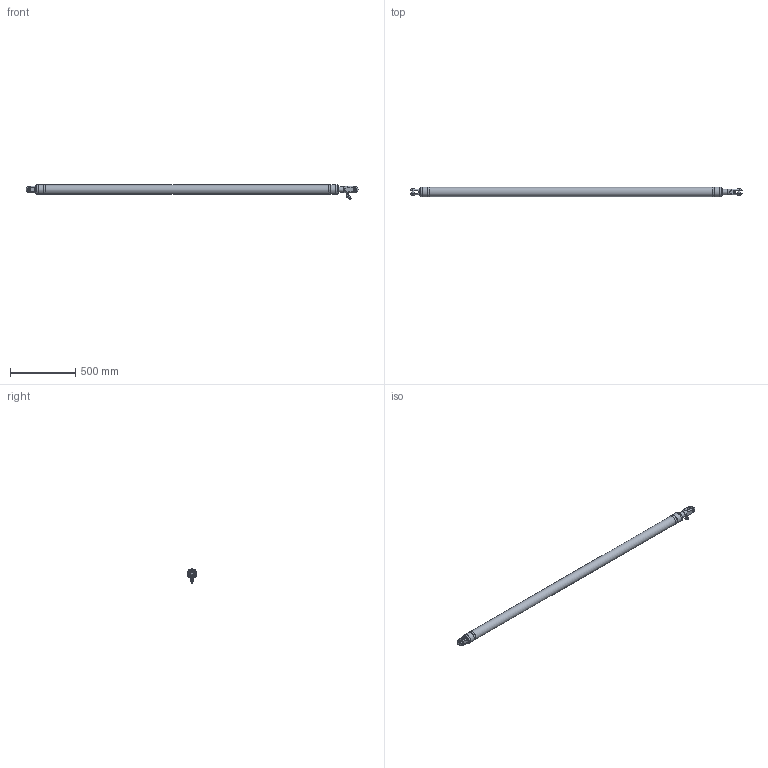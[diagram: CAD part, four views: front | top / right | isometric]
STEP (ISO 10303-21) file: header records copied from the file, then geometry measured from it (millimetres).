
FILE_DESCRIPTION(/* description */ (''),/* implementation_level */ '2;1');
FILE_NAME(/* name */ 'Q:\AA BRAND HYDRAULICS\HYDRAULICS FAMILY DIRECTORY\HYDRAULICS\CYLINDERS\VANGS\ALUMINIUM SINGLE ACTING - STAINLESS ON REQUEST (-0010 To -0150)\VSA-0022-S275-NP-71-L2500\VSA-0022-S275-NP-71-L2500 (Closed).stp',/* time_stamp */ '2018-04-26T09:59:25+01:00',/* author */ ('Lorena'),/* organization */ (''),/* preprocessor_version */ 'ST-DEVELOPER v17',/* originating_system */ 'Autodesk Inventor 2018',/* authorisation */ '');
FILE_SCHEMA (('AUTOMOTIVE_DESIGN { 1 0 10303 214 3 1 1 }'));
Products named in the file (1): VSA-0022_Shrinkwrap_1-0000
Bounding box: 2545.73 x 74.2 x 111.24 mm (x, y, z)
Volume: 9613218.3 mm3; surface area: 578127.2 mm2
Topology: 2 solids, 5 shells, 1618 faces, 4363 edges, 2894 vertices
Faces by surface type: plane 904, bspline 573, cylinder 79, cone 54, torus 4, sphere 4
Full cylindrical faces by diameter (mm): 5 x2, 5.1 x1, 5.9 x1, 6 x2, 6.6 x2, 11.157 x1, 11.5 x1, 11.8 x1, 12 x3, 12.157 x1, 12.5 x1, 12.77 x1, 13 x1, 13.157 x2, 14.5 x2, 15.88 x6, 18.3 x3, 19.85 x2, 22 x1, 42 x1, 71.2 x1, 72.2 x1, 74.2 x3
Entity records: 58938 total; most frequent: CARTESIAN_POINT 20475, ORIENTED_EDGE 8712, DIRECTION 5538, EDGE_CURVE 4356, VERTEX_POINT 2895, LINE 2786, VECTOR 2786, EDGE_LOOP 1777
